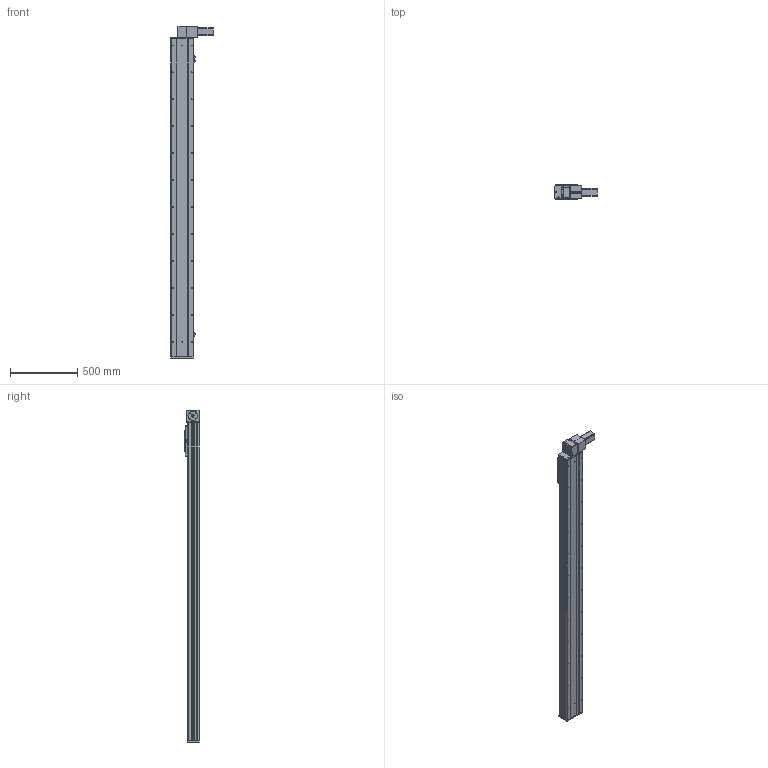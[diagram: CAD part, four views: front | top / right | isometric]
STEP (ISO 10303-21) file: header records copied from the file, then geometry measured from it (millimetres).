
FILE_DESCRIPTION (( 'STEP AP203' ), '1' );
FILE_NAME ('Y170CB-D105-S2050-BD-P400W.STEP', '2020-02-20T09:00:14', ( '微软用户' ), ( '微软中国' ), 'SwSTEP 2.0', 'SolidWorks 2017', '' );
FILE_SCHEMA (( 'CONFIG_CONTROL_DESIGN' ));
Length unit declared in the file: millimetre
Products named in the file (16): 0C--雄赽釱俋欶-170; B-源倛裔啣; 70CB-詩湍--; san松下电机400不带刹车----; Y100-135俋离換覜ん--; 70CB-掛极-; Y170CB-陔俋离換覜結え---; --70CB --喘謫眊楊擘啣-; Y1埴倛裔; 70CB-耜裔啣-; 70B喘謫眊----; 70C--詩湍揤踡え-; 0B薊粣ん眊-400W--; 70CB--耜裔; Y170CB-D105-S2050-BD-P400W; 70C-雄赽釱-奻-
Assembly tree (19 placements, depth 2):
  Y170CB-D105-S2050-BD-P400W
    B-源倛裔啣
    san松下电机400不带刹车----
    70CB-掛极-
    --70CB --喘謫眊楊擘啣-
    70CB-耜裔啣-  x2
    70C--詩湍揤踡え-  x2
    70CB--耜裔
    70C-雄赽釱-奻-
    0C--雄赽釱俋欶-170
    70CB-詩湍--
    Y100-135俋离換覜ん--  x3
    Y170CB-陔俋离換覜結え---
    Y1埴倛裔
    70B喘謫眊----
    0B薊粣ん眊-400W--
Bounding box: 313.5 x 107 x 2466 mm (x, y, z)
Volume: 10961416.2 mm3; surface area: 3821028.4 mm2
Topology: 19 solids, 19 shells, 960 faces, 2546 edges, 1688 vertices
Faces by surface type: cylinder 514, plane 422, cone 24
Entity records: 30179 total; most frequent: CARTESIAN_POINT 5626, DIRECTION 4911, ORIENTED_EDGE 4574, EDGE_CURVE 2287, AXIS2_PLACEMENT_3D 1821, VERTEX_POINT 1518, LINE 1269, VECTOR 1269
